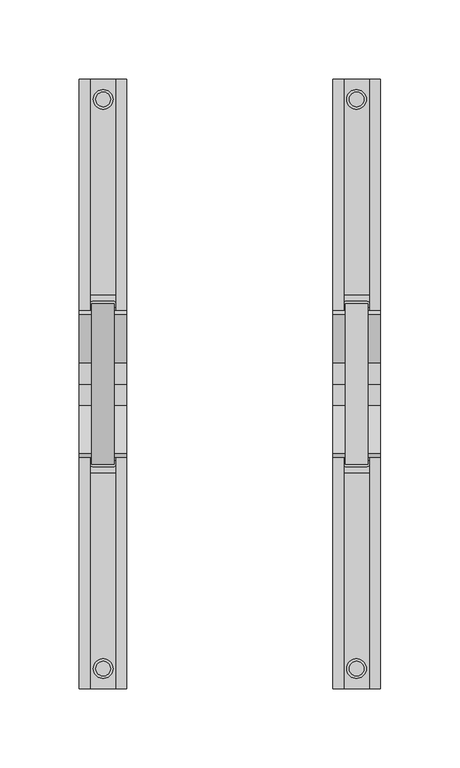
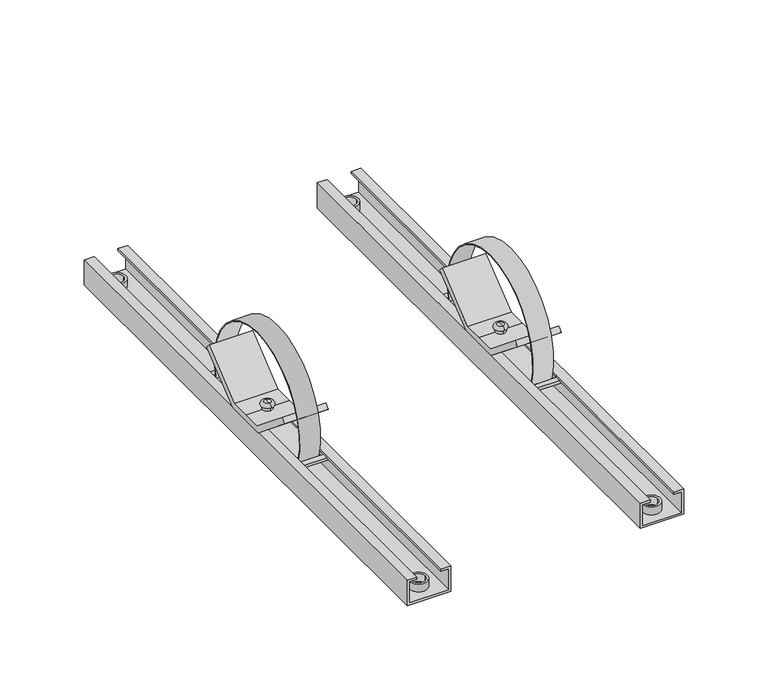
"""IFC4 building model written with IfcOpenShell, lengths in millimetres: proxy geometry, A KIT SYN MP : A KIT SYN MP."""

from ifc_helpers import new_model, si_unit, point, frame, frame_2d, origin, place, context, project, spatial, polyline, circle_curve, ellipse_curve, trimmed, segment, composite_curve, outline, extrude, source, transform, mapped, element, save
from ifc_brep_helpers import plane_surface, cylinder_surface, revolved_surface, advanced_brep


def electrical_equipment_cf1926ac(model_context):
    return source(origin(), model_context, "Body", "SolidModel", [
        extrude(outline(polyline([(-92.5, 56.0), (-67.5, 56.0), (-67.5, -56.0), (-92.5, -56.0), (-92.5, 56.0)]), holes=[composite_curve([segment(polyline([(-72.9386144, 52.0), (-86.6, 52.0)]), True, "CONTINUOUS"), segment(trimmed(circle_curve(frame_2d((-86.6, 50.0)), 2.0), [point((-86.6, 52.0))], [point((-86.6, 48.0))], True, "CARTESIAN"), True, "CONTINUOUS"), segment(polyline([(-86.6, 48.0), (-73.2445172, 48.0)]), True, "CONTINUOUS"), segment(trimmed(circle_curve(frame_2d((-73.4903355, 50.0304962)), 2.0453218), [point((-73.2445172, 48.0))], [point((-72.9386144, 52.0))], True, "CARTESIAN"), True, "CONTINUOUS")], self_intersect=False), composite_curve([segment(trimmed(circle_curve(frame_2d((-73.4903355, -50.0304962)), 2.0453218), [point((-72.9386144, -52.0))], [point((-73.2445172, -48.0))], True, "CARTESIAN"), True, "CONTINUOUS"), segment(polyline([(-73.2445172, -48.0), (-86.6, -48.0)]), True, "CONTINUOUS"), segment(trimmed(circle_curve(frame_2d((-86.6, -50.0)), 2.0), [point((-86.6, -48.0))], [point((-86.6, -52.0))], True, "CARTESIAN"), True, "CONTINUOUS"), segment(polyline([(-86.6, -52.0), (-72.9386144, -52.0)]), True, "CONTINUOUS")], self_intersect=False)]), frame((0.0, 0.0, -12.4651528), z_axis=(0.0, 0.0, 1.0), x_axis=(1.0, 0.0, 0.0)), (0.0, 0.0, 1.0), 2.0),
        extrude(outline(composite_curve([segment(trimmed(circle_curve(frame_2d((-79.9207598, -179.3820493)), 6.2), [point((-86.1207598, -179.3820493))], [point((-73.7207598, -179.3820493))], False, "CARTESIAN"), True, "CONTINUOUS"), segment(trimmed(circle_curve(frame_2d((-79.9207598, -179.3820493)), 6.2), [point((-73.7207598, -179.3820493))], [point((-86.1207598, -179.3820493))], False, "CARTESIAN"), True, "CONTINUOUS")], self_intersect=False), holes=[composite_curve([segment(trimmed(circle_curve(frame_2d((-79.9207598, -179.3820493)), 4.5844576), [point((-84.5052174, -179.3820493))], [point((-75.3363022, -179.3820493))], True, "CARTESIAN"), True, "CONTINUOUS"), segment(trimmed(circle_curve(frame_2d((-79.9207598, -179.3820493)), 4.5844576), [point((-75.3363022, -179.3820493))], [point((-84.5052174, -179.3820493))], True, "CARTESIAN"), True, "CONTINUOUS")], self_intersect=False)]), frame((0.0, 0.0, -25.7651528), z_axis=(0.0, 0.0, 1.0), x_axis=(1.0, 0.0, 0.0)), (0.0, 0.0, 1.0), 5.6),
        extrude(outline(composite_curve([segment(trimmed(circle_curve(frame_2d((79.9207598, -179.3820493)), 6.2), [point((86.1207598, -179.3820493))], [point((73.7207598, -179.3820493))], False, "CARTESIAN"), True, "CONTINUOUS"), segment(trimmed(circle_curve(frame_2d((79.9207598, -179.3820493)), 6.2), [point((73.7207598, -179.3820493))], [point((86.1207598, -179.3820493))], False, "CARTESIAN"), True, "CONTINUOUS")], self_intersect=False), holes=[composite_curve([segment(trimmed(circle_curve(frame_2d((79.9207598, -179.3820493)), 4.5844576), [point((84.5052174, -179.3820493))], [point((75.3363022, -179.3820493))], True, "CARTESIAN"), True, "CONTINUOUS"), segment(trimmed(circle_curve(frame_2d((79.9207598, -179.3820493)), 4.5844576), [point((75.3363022, -179.3820493))], [point((84.5052174, -179.3820493))], True, "CARTESIAN"), True, "CONTINUOUS")], self_intersect=False)]), frame((0.0, 0.0, -25.7651528), z_axis=(0.0, 0.0, 1.0), x_axis=(1.0, 0.0, 0.0)), (0.0, 0.0, 1.0), 5.6),
        extrude(outline(composite_curve([segment(trimmed(circle_curve(frame_2d((79.9207598, 179.3820493)), 6.2), [point((86.1207598, 179.3820493))], [point((73.7207598, 179.3820493))], False, "CARTESIAN"), True, "CONTINUOUS"), segment(trimmed(circle_curve(frame_2d((79.9207598, 179.3820493)), 6.2), [point((73.7207598, 179.3820493))], [point((86.1207598, 179.3820493))], False, "CARTESIAN"), True, "CONTINUOUS")], self_intersect=False), holes=[composite_curve([segment(trimmed(circle_curve(frame_2d((79.9207598, 179.3820493)), 4.5844576), [point((84.5052174, 179.3820493))], [point((75.3363022, 179.3820493))], True, "CARTESIAN"), True, "CONTINUOUS"), segment(trimmed(circle_curve(frame_2d((79.9207598, 179.3820493)), 4.5844576), [point((75.3363022, 179.3820493))], [point((84.5052174, 179.3820493))], True, "CARTESIAN"), True, "CONTINUOUS")], self_intersect=False)]), frame((0.0, 0.0, -25.7651528), z_axis=(0.0, 0.0, 1.0), x_axis=(1.0, 0.0, 0.0)), (0.0, 0.0, 1.0), 5.6),
        extrude(outline(composite_curve([segment(trimmed(circle_curve(frame_2d((-79.9207598, 179.3820493)), 6.2), [point((-86.1207598, 179.3820493))], [point((-73.7207598, 179.3820493))], False, "CARTESIAN"), True, "CONTINUOUS"), segment(trimmed(circle_curve(frame_2d((-79.9207598, 179.3820493)), 6.2), [point((-73.7207598, 179.3820493))], [point((-86.1207598, 179.3820493))], False, "CARTESIAN"), True, "CONTINUOUS")], self_intersect=False), holes=[composite_curve([segment(trimmed(circle_curve(frame_2d((-79.9207598, 179.3820493)), 4.5844576), [point((-84.5052174, 179.3820493))], [point((-75.3363022, 179.3820493))], True, "CARTESIAN"), True, "CONTINUOUS"), segment(trimmed(circle_curve(frame_2d((-79.9207598, 179.3820493)), 4.5844576), [point((-75.3363022, 179.3820493))], [point((-84.5052174, 179.3820493))], True, "CARTESIAN"), True, "CONTINUOUS")], self_intersect=False)]), frame((0.0, 0.0, -25.7651528), z_axis=(0.0, 0.0, 1.0), x_axis=(1.0, 0.0, 0.0)), (0.0, 0.0, 1.0), 5.6),
        advanced_brep(
        [(80.0, -3.5093867, -2.4651528), (80.0, 3.5093867, -2.4651528), (80.0, 3.5093867, -10.4651528), (80.0, -3.5093867, -10.4651528), (80.0, -4.5, -2.4651528), (80.0, 4.5, -2.4651528), (80.0, -2.5, -0.4651528), (80.0, 2.5, -0.4651528), (80.0, 0.0, -0.4651528), (80.0, 0.0, -10.4651528)],
        [
            (0, 1, circle_curve(frame((80.0, 0.0, -2.4651528), z_axis=(0.0, 0.0, -1.0), x_axis=(0.0, 1.0, 0.0)), 3.5093867)),
            (1, 2),
            (2, 3, circle_curve(frame((80.0, 0.0, -10.4651528), z_axis=(0.0, 0.0, 1.0), x_axis=(0.0, 1.0, 0.0)), 3.5093867)),
            (3, 0),
            (1, 0, circle_curve(frame((80.0, 0.0, -2.4651528), z_axis=(0.0, 0.0, -1.0), x_axis=(0.0, 1.0, 0.0)), 3.5093867)),
            (3, 2, circle_curve(frame((80.0, 0.0, -10.4651528), z_axis=(0.0, 0.0, 1.0), x_axis=(0.0, 1.0, 0.0)), 3.5093867)),
            (4, 5, circle_curve(frame((80.0, 0.0, -2.4651528), z_axis=(0.0, 0.0, -1.0), x_axis=(0.0, 1.0, 0.0)), 4.5)),
            (5, 1),
            (0, 4),
            (5, 4, circle_curve(frame((80.0, 0.0, -2.4651528), z_axis=(0.0, 0.0, -1.0), x_axis=(0.0, 1.0, 0.0)), 4.5)),
            (6, 7, circle_curve(frame((80.0, 0.0, -0.4651528), z_axis=(0.0, 0.0, -1.0), x_axis=(0.0, 1.0, 0.0)), 2.5)),
            (7, 5, circle_curve(frame((80.0, 2.5, -2.4651528), z_axis=(-1.0, 0.0, 0.0), x_axis=(0.0, -1.0, 0.0)), 2.0)),
            (4, 6, circle_curve(frame((80.0, -2.5, -2.4651528), z_axis=(-1.0, 0.0, 0.0), x_axis=(0.0, 1.0, 0.0)), 2.0)),
            (7, 6, circle_curve(frame((80.0, 0.0, -0.4651528), z_axis=(0.0, 0.0, -1.0), x_axis=(0.0, 1.0, 0.0)), 2.5)),
            (8, 7),
            (6, 8),
            (2, 9),
            (9, 3),
        ],
        [
            cylinder_surface(frame((80.0, 0.0, -0.4651528), z_axis=(0.0, 0.0, 1.0), x_axis=(0.0, 1.0, 0.0)), 3.5093867),
            plane_surface(frame((80.0, 0.0, -2.4651528), z_axis=(0.0, 0.0, -1.0), x_axis=(0.0, 1.0, 0.0))),
            revolved_surface(trimmed(ellipse_curve(frame((80.0, 2.5, -2.4651528), z_axis=(1.0, 0.0, 0.0), x_axis=(0.0, -1.0, 0.0)), 2.0, 2.0), [point((80.0, 4.5, -2.4651528))], [point((80.0, 2.5, -0.4651528))], True, "CARTESIAN"), (80.0, 0.0, -0.4651528), (0.0, 0.0, 1.0)),
            plane_surface(frame((80.0, 0.0, -0.4651528), z_axis=(0.0, 0.0, 1.0), x_axis=(0.0, 1.0, 0.0))),
            plane_surface(frame((80.0, 0.0, -10.4651528), z_axis=(0.0, 0.0, -1.0), x_axis=(0.0, 1.0, 0.0))),
        ],
        [
            (0, [[1, 2, 3, 4]]),
            (0, [[5, -4, 6, -2]]),
            (1, [[7, 8, -1, 9]]),
            (1, [[10, -9, -5, -8]]),
            (2, [[11, 12, -7, 13]]),
            (2, [[14, -13, -10, -12]]),
            (3, [[15, -11, 16]]),
            (3, [[-16, -14, -15]]),
            (4, [[-3, 17, 18]]),
            (4, [[-6, -18, -17]]),
        ],
    ),
        advanced_brep(
        [(-80.0, -3.5093867, -2.4651528), (-80.0, 3.5093867, -2.4651528), (-80.0, 3.5093867, -10.4651528), (-80.0, -3.5093867, -10.4651528), (-80.0, -4.5, -2.4651528), (-80.0, 4.5, -2.4651528), (-80.0, -2.5, -0.4651528), (-80.0, 2.5, -0.4651528), (-80.0, 0.0, -0.4651528), (-80.0, 0.0, -10.4651528)],
        [
            (0, 1, circle_curve(frame((-80.0, 0.0, -2.4651528), z_axis=(0.0, 0.0, -1.0), x_axis=(0.0, 1.0, 0.0)), 3.5093867)),
            (1, 2),
            (2, 3, circle_curve(frame((-80.0, 0.0, -10.4651528), z_axis=(0.0, 0.0, 1.0), x_axis=(0.0, 1.0, 0.0)), 3.5093867)),
            (3, 0),
            (1, 0, circle_curve(frame((-80.0, 0.0, -2.4651528), z_axis=(0.0, 0.0, -1.0), x_axis=(0.0, 1.0, 0.0)), 3.5093867)),
            (3, 2, circle_curve(frame((-80.0, 0.0, -10.4651528), z_axis=(0.0, 0.0, 1.0), x_axis=(0.0, 1.0, 0.0)), 3.5093867)),
            (4, 5, circle_curve(frame((-80.0, 0.0, -2.4651528), z_axis=(0.0, 0.0, -1.0), x_axis=(0.0, 1.0, 0.0)), 4.5)),
            (5, 1),
            (0, 4),
            (5, 4, circle_curve(frame((-80.0, 0.0, -2.4651528), z_axis=(0.0, 0.0, -1.0), x_axis=(0.0, 1.0, 0.0)), 4.5)),
            (6, 7, circle_curve(frame((-80.0, 0.0, -0.4651528), z_axis=(0.0, 0.0, -1.0), x_axis=(0.0, 1.0, 0.0)), 2.5)),
            (7, 5, circle_curve(frame((-80.0, 2.5, -2.4651528), z_axis=(-1.0, 0.0, 0.0), x_axis=(0.0, -1.0, 0.0)), 2.0)),
            (4, 6, circle_curve(frame((-80.0, -2.5, -2.4651528), z_axis=(-1.0, 0.0, 0.0), x_axis=(0.0, 1.0, 0.0)), 2.0)),
            (7, 6, circle_curve(frame((-80.0, 0.0, -0.4651528), z_axis=(0.0, 0.0, -1.0), x_axis=(0.0, 1.0, 0.0)), 2.5)),
            (8, 7),
            (6, 8),
            (2, 9),
            (9, 3),
        ],
        [
            cylinder_surface(frame((-80.0, 0.0, -0.4651528), z_axis=(0.0, 0.0, 1.0), x_axis=(0.0, 1.0, 0.0)), 3.5093867),
            plane_surface(frame((-80.0, 0.0, -2.4651528), z_axis=(0.0, 0.0, -1.0), x_axis=(0.0, 1.0, 0.0))),
            revolved_surface(trimmed(ellipse_curve(frame((-80.0, 2.5, -2.4651528), z_axis=(1.0, 0.0, 0.0), x_axis=(0.0, -1.0, 0.0)), 2.0, 2.0), [point((-80.0, 4.5, -2.4651528))], [point((-80.0, 2.5, -0.4651528))], True, "CARTESIAN"), (-80.0, 0.0, -0.4651528), (0.0, 0.0, 1.0)),
            plane_surface(frame((-80.0, 0.0, -0.4651528), z_axis=(0.0, 0.0, 1.0), x_axis=(0.0, 1.0, 0.0))),
            plane_surface(frame((-80.0, 0.0, -10.4651528), z_axis=(0.0, 0.0, -1.0), x_axis=(0.0, 1.0, 0.0))),
        ],
        [
            (0, [[1, 2, 3, 4]]),
            (0, [[5, -4, 6, -2]]),
            (1, [[7, 8, -1, 9]]),
            (1, [[10, -9, -5, -8]]),
            (2, [[11, 12, -7, 13]]),
            (2, [[14, -13, -10, -12]]),
            (3, [[15, -11, 16]]),
            (3, [[-16, -14, -15]]),
            (4, [[-3, 17, 18]]),
            (4, [[-6, -18, -17]]),
        ],
    ),
        extrude(outline(polyline([(43.4961183, 19.2939711), (46.0858385, 16.2076628), (15.0, -8.9651528), (0.0, -8.9651528), (-15.0, -8.9651528), (-46.0858385, 16.2076628), (-43.4961183, 19.2939711), (-13.4688223, -5.0216538), (0.0, -5.0216538), (13.4688223, -5.0216538), (43.4961183, 19.2939711)])), frame((-95.0, 0.0, 0.0), z_axis=(1.0, 0.0, 0.0), x_axis=(0.0, 1.0, 0.0)), (0.0, 0.0, 1.0), 30.0),
        extrude(outline(polyline([(43.4961183, 19.2939711), (46.0858385, 16.2076628), (15.0, -8.9651528), (0.0, -8.9651528), (-15.0, -8.9651528), (-46.0858385, 16.2076628), (-43.4961183, 19.2939711), (-13.4688223, -5.0216538), (0.0, -5.0216538), (13.4688223, -5.0216538), (43.4961183, 19.2939711)])), frame((65.0, 0.0, 0.0), z_axis=(1.0, 0.0, 0.0), x_axis=(0.0, 1.0, 0.0)), (0.0, 0.0, 1.0), 30.0),
        extrude(outline(polyline([(92.5, 56.0), (92.5, -56.0), (67.5, -56.0), (67.5, 56.0), (92.5, 56.0)]), holes=[composite_curve([segment(trimmed(circle_curve(frame_2d((73.4903355, 50.0304962)), 2.0453218), [point((72.9386144, 52.0))], [point((73.2445172, 48.0))], True, "CARTESIAN"), True, "CONTINUOUS"), segment(polyline([(73.2445172, 48.0), (86.6, 48.0)]), True, "CONTINUOUS"), segment(trimmed(circle_curve(frame_2d((86.6, 50.0)), 2.0), [point((86.6, 48.0))], [point((86.6, 52.0))], True, "CARTESIAN"), True, "CONTINUOUS"), segment(polyline([(86.6, 52.0), (72.9386144, 52.0)]), True, "CONTINUOUS")], self_intersect=False), composite_curve([segment(polyline([(72.9386144, -52.0), (86.6, -52.0)]), True, "CONTINUOUS"), segment(trimmed(circle_curve(frame_2d((86.6, -50.0)), 2.0), [point((86.6, -52.0))], [point((86.6, -48.0))], True, "CARTESIAN"), True, "CONTINUOUS"), segment(polyline([(86.6, -48.0), (73.2445172, -48.0)]), True, "CONTINUOUS"), segment(trimmed(circle_curve(frame_2d((73.4903355, -50.0304962)), 2.0453218), [point((73.2445172, -48.0))], [point((72.9386144, -52.0))], True, "CARTESIAN"), True, "CONTINUOUS")], self_intersect=False)]), frame((0.0, 0.0, -12.4651528), z_axis=(0.0, 0.0, 1.0), x_axis=(1.0, 0.0, 0.0)), (0.0, 0.0, 1.0), 2.0),
        extrude(outline(composite_curve([segment(trimmed(circle_curve(frame_2d((0.0, 1.52735)), 50.6978268), [point((-48.5221599, -13.1651528))], [point((48.5221599, -13.1651528))], False, "CARTESIAN"), True, "CONTINUOUS"), segment(polyline([(48.5221599, -13.1651528), (-48.5221599, -13.1651528)]), True, "CONTINUOUS")], self_intersect=False), holes=[composite_curve([segment(trimmed(circle_curve(frame_2d((0.0, 1.5430199)), 50.002289), [point((48.0, -12.4651528))], [point((-48.0, -12.4651528))], True, "CARTESIAN"), True, "CONTINUOUS"), segment(polyline([(-48.0, -12.4651528), (48.0, -12.4651528)]), True, "CONTINUOUS")], self_intersect=False)]), frame((-87.1, 0.0, 0.0), z_axis=(1.0, 0.0, 0.0), x_axis=(0.0, 1.0, 0.0)), (0.0, 0.0, 1.0), 14.2),
        extrude(outline(composite_curve([segment(trimmed(circle_curve(frame_2d((0.0, 1.52735)), 50.6978268), [point((-48.5221599, -13.1651528))], [point((48.5221599, -13.1651528))], False, "CARTESIAN"), True, "CONTINUOUS"), segment(polyline([(48.5221599, -13.1651528), (-48.5221599, -13.1651528)]), True, "CONTINUOUS")], self_intersect=False), holes=[composite_curve([segment(trimmed(circle_curve(frame_2d((0.0, 1.5430199)), 50.002289), [point((48.0, -12.4651528))], [point((-48.0, -12.4651528))], True, "CARTESIAN"), True, "CONTINUOUS"), segment(polyline([(-48.0, -12.4651528), (48.0, -12.4651528)]), True, "CONTINUOUS")], self_intersect=False)]), frame((72.9, 0.0, 0.0), z_axis=(1.0, 0.0, 0.0), x_axis=(0.0, 1.0, 0.0)), (0.0, 0.0, 1.0), 14.2),
        extrude(outline(polyline([(-8.9651528, -88.2), (-8.9651528, -95.0), (-27.2113365, -95.0), (-27.2113365, -65.0), (-8.9651528, -65.0), (-8.9651528, -71.8), (-10.4651528, -71.8), (-10.4651528, -66.5), (-25.7651528, -66.5), (-25.7651528, -93.5), (-10.4651528, -93.5), (-10.4651528, -88.2), (-8.9651528, -88.2)])), frame((0.0, -192.0, 0.0), z_axis=(0.0, 1.0, 0.0), x_axis=(0.0, 0.0, 1.0)), (0.0, 0.0, 1.0), 384.0),
        extrude(outline(polyline([(-8.9651528, 88.2), (-10.4651528, 88.2), (-10.4651528, 93.5), (-25.7651528, 93.5), (-25.7651528, 66.5), (-10.4651528, 66.5), (-10.4651528, 71.8), (-8.9651528, 71.8), (-8.9651528, 65.0), (-27.2113365, 65.0), (-27.2113365, 95.0), (-8.9651528, 95.0), (-8.9651528, 88.2)])), frame((0.0, -192.0, 0.0), z_axis=(0.0, 1.0, 0.0), x_axis=(0.0, 0.0, 1.0)), (0.0, 0.0, 1.0), 384.0),
    ])


if __name__ == "__main__":
    model = new_model("IFC4")
    model_context = context("Model", 3, world=origin())
    ifc_project = project(units=[si_unit("LENGTHUNIT", "METRE", prefix="MILLI")], contexts=[model_context])
    site = spatial("IfcSite", under=ifc_project)
    building = spatial("IfcBuilding", under=site)
    placement = place(None, origin())
    electrical_equipment_shape = electrical_equipment_cf1926ac(model_context)
    element("IfcBuildingElementProxy", 1, Name="A KIT SYN MP : A KIT SYN MP", ObjectType="A KIT SYN MP : A KIT SYN MP", at=placement, inside=building, context=model_context, shape_type="MappedRepresentation", body=[
        mapped(electrical_equipment_shape, transform((0.0, 0.0, 0.0), x_axis=(1.0, 0.0, 0.0), y_axis=(0.0, 1.0, 0.0), z_axis=(0.0, 0.0, 1.0))),
    ])
    save(model, "model.ifc")
